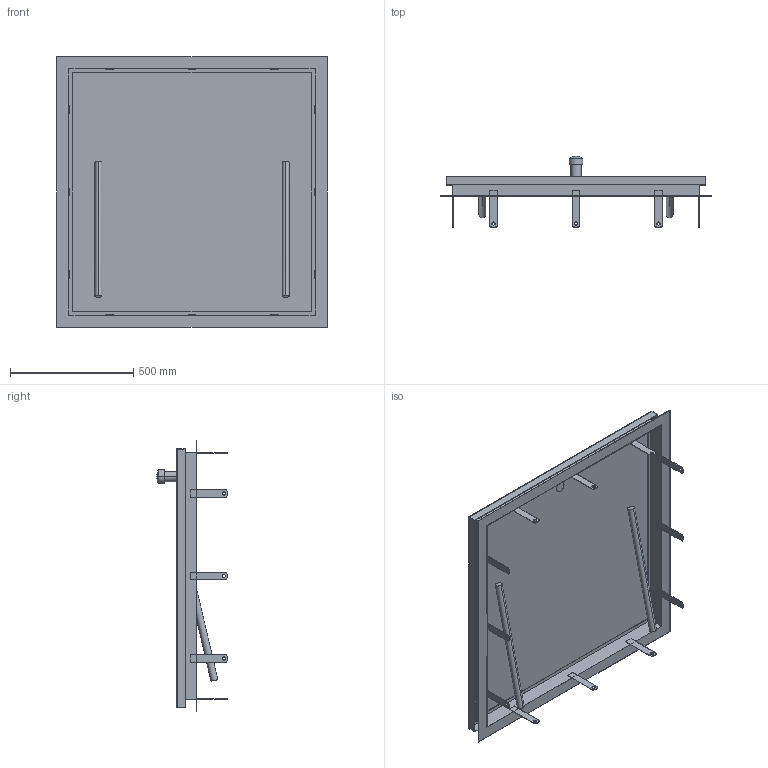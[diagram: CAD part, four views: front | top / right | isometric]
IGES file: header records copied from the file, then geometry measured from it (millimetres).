
Start section:  PTC IGES file: 017_000105.igs
Global section: file name: 017_000105.igs; native system: Creo Parametric by Parametric Technology Corporation; preprocessor: 2017170; author: stat; organization: Unknown; date: 20180524.074308; units: millimetre
Bounding box: 1100 x 288 x 1100 mm (x, y, z)
Surface area: 3751450.2 mm2 (no closed solid volume)
Topology: 0 solids, 0 shells, 142 faces, 726 edges, 724 vertices
Faces by surface type: bspline 96, revolution 46
